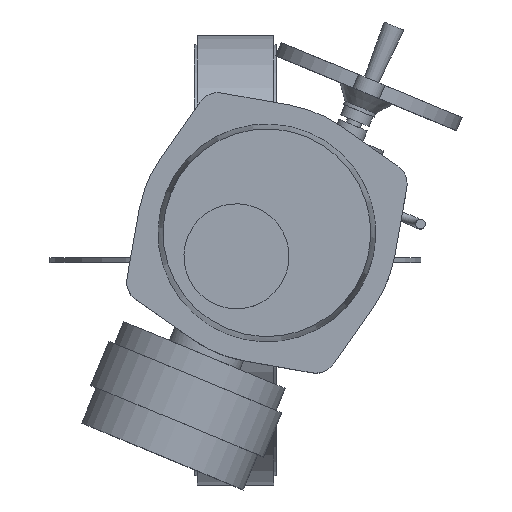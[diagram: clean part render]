
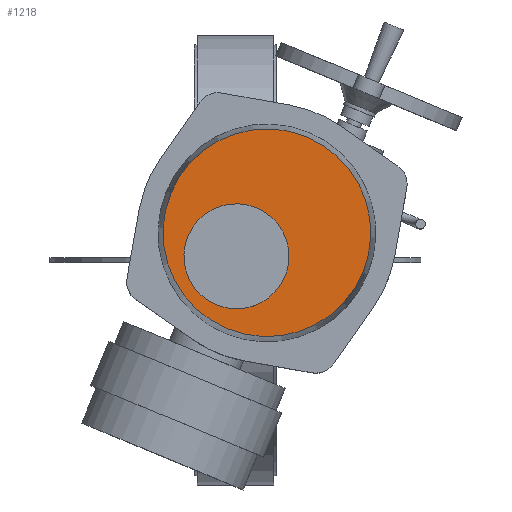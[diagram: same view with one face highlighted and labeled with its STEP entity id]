
A CAD part, top view. The second image highlights one B-rep face of the part: STEP entity #1218.
In plain terms, the highlighted planar face has unit normal (0, 0, 1).
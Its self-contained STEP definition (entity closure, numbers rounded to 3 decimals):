
#1218=ADVANCED_FACE('',(#2649,#2651),#2653,.T.);
#2649=FACE_BOUND('',#2650,.T.);
#2650=EDGE_LOOP('',(#3575));
#2651=FACE_BOUND('',#2652,.T.);
#2652=EDGE_LOOP('',(#3576));
#2653=PLANE('',#2654);
#2654=AXIS2_PLACEMENT_3D('',#2655,#2656,#2657);
#2655=CARTESIAN_POINT('',(33.02,27.454,723.));
#2656=DIRECTION('',(0.,0.,1.));
#2657=DIRECTION('',(-0.924,0.383,0.));
#3575=ORIENTED_EDGE('',*,*,#4017,.T.);
#3576=ORIENTED_EDGE('',*,*,#4028,.F.);
#4017=EDGE_CURVE('',#4593,#4593,#4594,.T.);
#4028=EDGE_CURVE('',#4615,#4615,#4616,.T.);
#4593=VERTEX_POINT('',#7543);
#4594=CIRCLE('',#7544,108.707);
#4615=VERTEX_POINT('',#7690);
#4616=CIRCLE('',#7691,55.);
#7543=CARTESIAN_POINT('',(-67.412,69.054,723.));
#7544=AXIS2_PLACEMENT_3D('',#7545,#7546,#7547);
#7545=CARTESIAN_POINT('',(33.02,27.454,723.));
#7546=DIRECTION('',(0.,0.,1.));
#7547=DIRECTION('',(-0.924,0.383,0.));
#7690=CARTESIAN_POINT('',(-49.665,23.819,723.));
#7691=AXIS2_PLACEMENT_3D('',#7692,#7693,#7694);
#7692=CARTESIAN_POINT('',(1.148,2.772,723.));
#7693=DIRECTION('',(0.,0.,1.));
#7694=DIRECTION('',(-0.924,0.383,0.));
